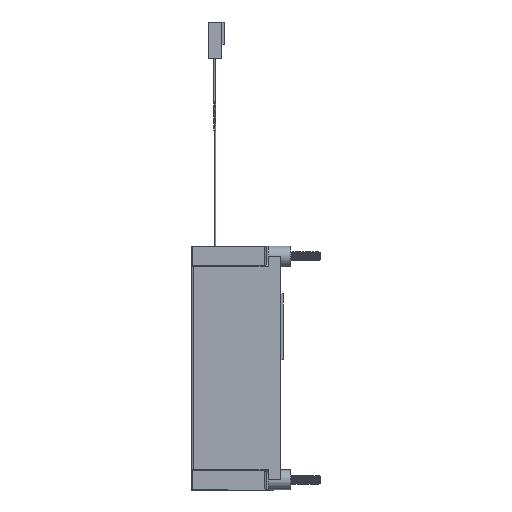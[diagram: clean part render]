
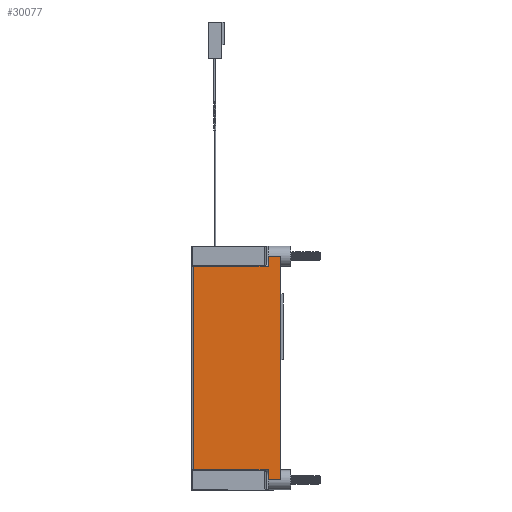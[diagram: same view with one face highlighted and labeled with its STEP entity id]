
A CAD part, left-side view. The second image highlights one B-rep face of the part: STEP entity #30077.
In plain terms, the highlighted planar face has unit normal (-1, 0, 0).
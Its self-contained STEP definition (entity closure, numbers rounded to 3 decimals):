
#239 = DIRECTION ( 'NONE',  ( 0., 0., 1. ) ) ;
#247 = DIRECTION ( 'NONE',  ( 0., 0., -1. ) ) ;
#767 = DIRECTION ( 'NONE',  ( 0., 0., 1. ) ) ;
#863 = CARTESIAN_POINT ( 'NONE',  ( -27.5, 31., -35.5 ) ) ;
#3107 = VERTEX_POINT ( 'NONE', #43719 ) ;
#3799 = EDGE_CURVE ( 'NONE', #30752, #39047, #5996, .T. ) ;
#4688 = CARTESIAN_POINT ( 'NONE',  ( -27.5, 4.35, -39. ) ) ;
#5450 = VECTOR ( 'NONE', #247, 1000. ) ;
#5996 = LINE ( 'NONE', #9960, #54550 ) ;
#7094 = FACE_OUTER_BOUND ( 'NONE', #56576, .T. ) ;
#8610 = ORIENTED_EDGE ( 'NONE', *, *, #59375, .F. ) ;
#9960 = CARTESIAN_POINT ( 'NONE',  ( -27.5, 5., -39. ) ) ;
#10135 = LINE ( 'NONE', #35555, #5450 ) ;
#11891 = LINE ( 'NONE', #12529, #46717 ) ;
#12025 = DIRECTION ( 'NONE',  ( 1., 0., 0. ) ) ;
#12529 = CARTESIAN_POINT ( 'NONE',  ( -27.5, 31., 35.5 ) ) ;
#15035 = EDGE_CURVE ( 'NONE', #33457, #3107, #55527, .T. ) ;
#15358 = LINE ( 'NONE', #25593, #23838 ) ;
#15562 = EDGE_CURVE ( 'NONE', #39047, #56328, #15358, .T. ) ;
#16347 = CARTESIAN_POINT ( 'NONE',  ( -27.5, 30.5, 35.5 ) ) ;
#17081 = EDGE_CURVE ( 'NONE', #56328, #3107, #26963, .T. ) ;
#20632 = DIRECTION ( 'NONE',  ( 0., 0., 1. ) ) ;
#23838 = VECTOR ( 'NONE', #20632, 1000. ) ;
#25133 = EDGE_CURVE ( 'NONE', #62057, #33457, #11891, .T. ) ;
#25369 = VECTOR ( 'NONE', #40460, 1000. ) ;
#25593 = CARTESIAN_POINT ( 'NONE',  ( -27.5, 0., -42.5 ) ) ;
#26963 = LINE ( 'NONE', #36898, #41891 ) ;
#27204 = CARTESIAN_POINT ( 'NONE',  ( -27.5, 5., -42.5 ) ) ;
#28547 = CARTESIAN_POINT ( 'NONE',  ( -27.5, 4.35, 35.5 ) ) ;
#29275 = VERTEX_POINT ( 'NONE', #42971 ) ;
#30077 = ADVANCED_FACE ( 'NONE', ( #7094 ), #57219, .F. ) ;
#30752 = VERTEX_POINT ( 'NONE', #4688 ) ;
#31109 = CARTESIAN_POINT ( 'NONE',  ( -27.5, 4.35, 35.5 ) ) ;
#33457 = VERTEX_POINT ( 'NONE', #28547 ) ;
#35555 = CARTESIAN_POINT ( 'NONE',  ( -27.5, 30.5, -42.5 ) ) ;
#36180 = VERTEX_POINT ( 'NONE', #44754 ) ;
#36356 = DIRECTION ( 'NONE',  ( 0., -1., 0. ) ) ;
#36898 = CARTESIAN_POINT ( 'NONE',  ( -27.5, 5., 39. ) ) ;
#39047 = VERTEX_POINT ( 'NONE', #63679 ) ;
#39090 = ORIENTED_EDGE ( 'NONE', *, *, #3799, .T. ) ;
#39540 = ORIENTED_EDGE ( 'NONE', *, *, #46176, .T. ) ;
#40193 = ORIENTED_EDGE ( 'NONE', *, *, #25133, .F. ) ;
#40460 = DIRECTION ( 'NONE',  ( 0., -1., 0. ) ) ;
#41891 = VECTOR ( 'NONE', #56994, 1000. ) ;
#42156 = CARTESIAN_POINT ( 'NONE',  ( -27.5, 0., 39. ) ) ;
#42971 = CARTESIAN_POINT ( 'NONE',  ( -27.5, 4.35, -35.5 ) ) ;
#43719 = CARTESIAN_POINT ( 'NONE',  ( -27.5, 4.35, 39. ) ) ;
#44754 = CARTESIAN_POINT ( 'NONE',  ( -27.5, 30.5, -35.5 ) ) ;
#45413 = CARTESIAN_POINT ( 'NONE',  ( -27.5, 4.35, -39. ) ) ;
#46176 = EDGE_CURVE ( 'NONE', #62057, #36180, #10135, .T. ) ;
#46681 = VECTOR ( 'NONE', #239, 1000. ) ;
#46717 = VECTOR ( 'NONE', #62993, 1000. ) ;
#49403 = ORIENTED_EDGE ( 'NONE', *, *, #17081, .T. ) ;
#50278 = ORIENTED_EDGE ( 'NONE', *, *, #55478, .T. ) ;
#50375 = LINE ( 'NONE', #45413, #46681 ) ;
#50990 = LINE ( 'NONE', #863, #25369 ) ;
#51262 = VECTOR ( 'NONE', #767, 1000. ) ;
#52592 = DIRECTION ( 'NONE',  ( 0., 0., -1. ) ) ;
#53290 = AXIS2_PLACEMENT_3D ( 'NONE', #27204, #12025, #52592 ) ;
#54550 = VECTOR ( 'NONE', #36356, 1000. ) ;
#55478 = EDGE_CURVE ( 'NONE', #36180, #29275, #50990, .T. ) ;
#55527 = LINE ( 'NONE', #31109, #51262 ) ;
#55924 = ORIENTED_EDGE ( 'NONE', *, *, #15562, .T. ) ;
#56328 = VERTEX_POINT ( 'NONE', #42156 ) ;
#56576 = EDGE_LOOP ( 'NONE', ( #61671, #40193, #39540, #50278, #8610, #39090, #55924, #49403 ) ) ;
#56994 = DIRECTION ( 'NONE',  ( 0., 1., 0. ) ) ;
#57219 = PLANE ( 'NONE',  #53290 ) ;
#59375 = EDGE_CURVE ( 'NONE', #30752, #29275, #50375, .T. ) ;
#61671 = ORIENTED_EDGE ( 'NONE', *, *, #15035, .F. ) ;
#62057 = VERTEX_POINT ( 'NONE', #16347 ) ;
#62993 = DIRECTION ( 'NONE',  ( 0., -1., 0. ) ) ;
#63679 = CARTESIAN_POINT ( 'NONE',  ( -27.5, 0., -39. ) ) ;
